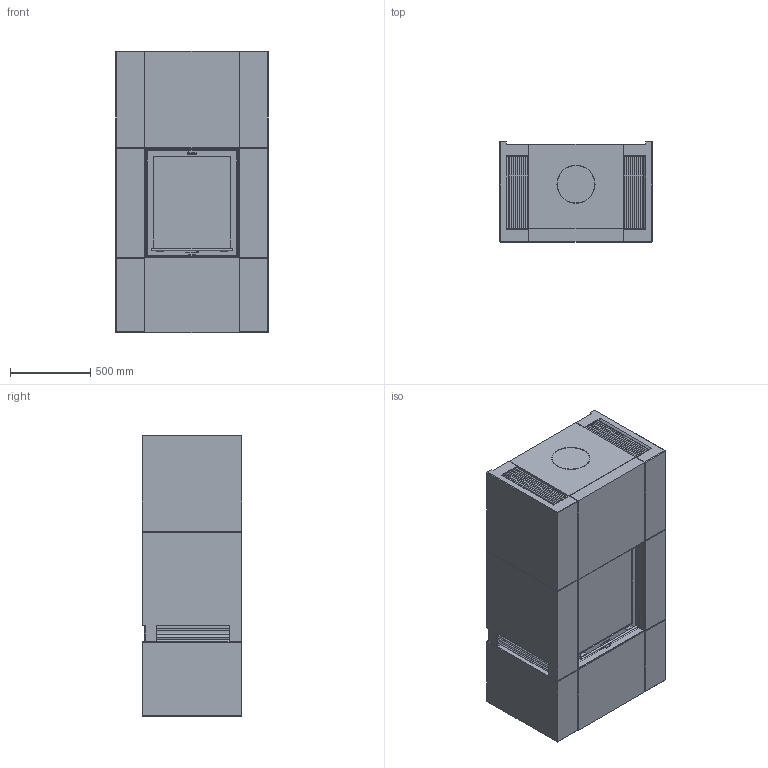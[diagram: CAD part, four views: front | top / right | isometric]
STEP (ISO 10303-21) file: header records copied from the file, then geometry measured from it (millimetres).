
FILE_DESCRIPTION( ( 'Unknown' ), '1' );
FILE_NAME( 'C:/Documents and Settings/hapierrea/Application Data/Unigraphics Solutions/Solid Edge/Insight/insight/Insight/interior models/C21S Assembly.stp', '2010', ( 'Unknown' ), ( 'NIBE AB' ), 'PSStep 11.0', 'Solid Edge', ' ' );
FILE_SCHEMA( ( 'AUTOMOTIVE_DESIGN { 1 0 10303 214 1 1 1 1 }' ) );
Length unit declared in the file: millimetre
Products named in the file (26): Assem1; Grills C21; Insert i20; Firebox insulation i20; Front set C21S; Door i20; Door frame i20; Glass i20; Concrete set C21-oa0; Fire i20
Bounding box: 950 x 620 x 1752 mm (x, y, z)
Surface area: 45589960 mm2
Topology: 50 solids, 50 shells, 3130 faces, 8146 edges, 5374 vertices
Faces by surface type: plane 2254, extrusion 584, cylinder 268, cone 20, sphere 4
Full cylindrical faces by diameter (mm): 10 x32, 12 x2, 100 x6, 200 x6, 233.561 x2, 236.938 x2
Entity records: 67586 total; most frequent: CARTESIAN_POINT 18145, ORIENTED_EDGE 8090, DIRECTION 6246, EDGE_CURVE 4045, VERTEX_POINT 2686, VECTOR 2614, LINE 2322, AXIS2_PLACEMENT_3D 1816
